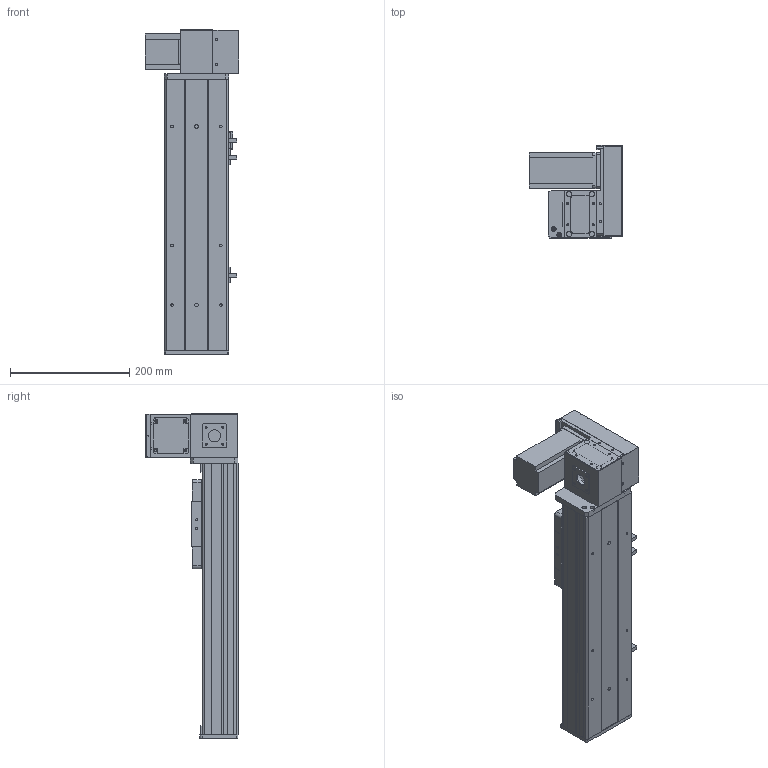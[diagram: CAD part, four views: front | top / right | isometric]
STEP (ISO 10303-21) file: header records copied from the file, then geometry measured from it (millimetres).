
FILE_DESCRIPTION (( 'STEP AP203' ), '1' );
FILE_NAME ('Y10CB-D90-S200-UR-P400W.STEP', '2020-02-16T02:56:46', ( '微软用户' ), ( '微软中国' ), 'SwSTEP 2.0', 'SolidWorks 2017', '' );
FILE_SCHEMA (( 'CONFIG_CONTROL_DESIGN' ));
Length unit declared in the file: millimetre
Products named in the file (18): 00B-俋欶BM--; Y10CB- 掛极耜裔啣-毀---; 0CB-雄赽釱---; Y10CB-D90-S200-UR-P400W; Y10C---詩湍揤啣; 0Cb-俋欶---; 10CB9-掛极; Y10B-々湍喘謫眊楊擘啣--; 10CB-耜裔; 0B-萇儂楊擘啣; Y135C-陔俋离換覜結え-; san松下电机400不带刹车----; Y100-135俋离換覜ん--; 0B-源倛裔啣; Y10B--々湍喘謫眊--666; 0B-埴倛裔啣; Y10B-耜蚾蟀諉啣----; 10CB-詩湍-
Assembly tree (21 placements, depth 2):
  Y10CB-D90-S200-UR-P400W
    0CB-雄赽釱---
    0Cb-俋欶---
    Y10B-々湍喘謫眊楊擘啣--
    0B-萇儂楊擘啣
    san松下电机400不带刹车----
    0B-源倛裔啣
    0B-埴倛裔啣
    10CB-詩湍-
    Y10CB- 掛极耜裔啣-毀---  x2
    Y10C---詩湍揤啣  x2
    10CB9-掛极
    10CB-耜裔
    Y135C-陔俋离換覜結え-
    Y100-135俋离換覜ん--  x3
    Y10B--々湍喘謫眊--666
    Y10B-耜蚾蟀諉啣----
    00B-俋欶BM--
Bounding box: 157 x 155.5 x 546 mm (x, y, z)
Volume: 1739890.6 mm3; surface area: 707267.6 mm2
Topology: 21 solids, 21 shells, 942 faces, 2483 edges, 1634 vertices
Faces by surface type: plane 469, cylinder 449, cone 24
Entity records: 28912 total; most frequent: CARTESIAN_POINT 4877, DIRECTION 4726, ORIENTED_EDGE 4436, EDGE_CURVE 2218, AXIS2_PLACEMENT_3D 1693, VERTEX_POINT 1460, LINE 1340, VECTOR 1340
